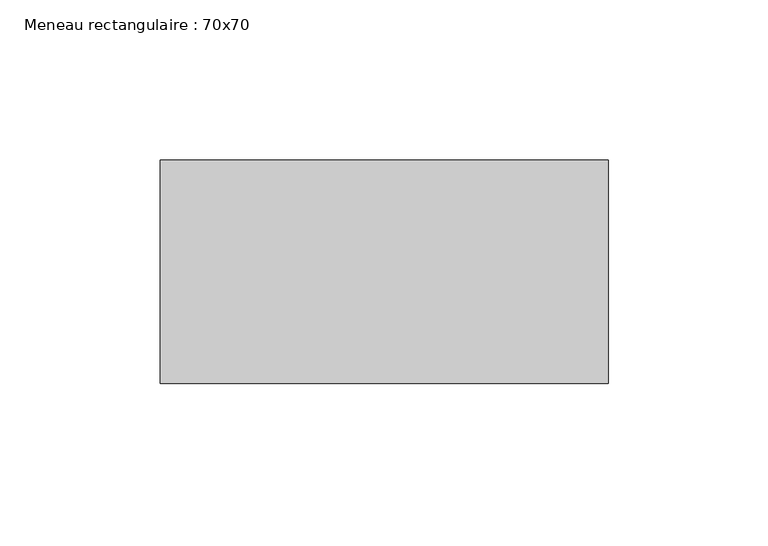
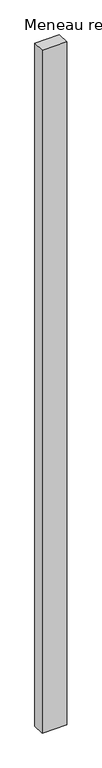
"""IFC4 building model written with IfcOpenShell, lengths in millimetres: member geometry, Meneau rectangulaire : 70x70."""

import ifcopenshell
import ifcopenshell.guid

model = None  # the IFC model being written
_history = None  # IfcOwnerHistory: only IFC2X3 demands one
_inside = {}  # id of a spatial element -> (the spatial element, [elements in it])
_under = {}  # id of a project, library or spatial element -> (it, [spatial elements below it])
_declared = {}  # id of a project -> (the project, [libraries it declares])
_typed = {}  # id of a type object -> (the type object, [elements of that type])
_made_of = {}  # id of a material, layer set ... -> (it, [elements and type objects made of it])


def new_model(schema):
    """Start an empty IFC model of exactly this schema.

    Asked for "IFC4X3", IfcOpenShell would pick the latest addendum, in which some entities
    have other attributes; the version numbers below select the first issue.
    IFC2X3 requires an IfcOwnerHistory on every rooted entity: one is made here for all.
    """
    global model, _history
    if schema == "IFC4X3":
        model = ifcopenshell.file(schema_version=(4, 3, 0, 0))
    else:
        model = ifcopenshell.file(schema=schema)
    _inside.clear()
    _under.clear()
    _declared.clear()
    _typed.clear()
    _made_of.clear()
    _history = None
    if model.schema == "IFC2X3":
        org = make("IfcOrganization", Name="unknown")
        user = make(
            "IfcPersonAndOrganization",
            ThePerson=make("IfcPerson", FamilyName="unknown"),
            TheOrganization=org,
        )
        app = make(
            "IfcApplication",
            ApplicationDeveloper=org,
            Version="unknown",
            ApplicationFullName="unknown",
            ApplicationIdentifier="unknown",
        )
        _history = make(
            "IfcOwnerHistory",
            OwningUser=user,
            OwningApplication=app,
            ChangeAction="ADDED",
            CreationDate=0,
        )
    return model


def make(cls, **values):
    """One entity of the class cls with the attributes given. An attribute that is None is left unset."""
    return model.create_entity(
        cls, **{name: value for name, value in values.items() if value is not None}
    )


def rooted(cls, **values):
    """An entity with a GlobalId (a new one), such as an element, a storey or a relation."""
    return make(cls, GlobalId=ifcopenshell.guid.new(), OwnerHistory=_history, **values)


def si_unit(unit_type, name, prefix=None):
    """IfcSIUnit, for example si_unit("LENGTHUNIT", "METRE", prefix="MILLI")."""
    return make("IfcSIUnit", UnitType=unit_type, Prefix=prefix, Name=name)


def assignment(units):
    """IfcUnitAssignment: the units of a project."""
    return None if units is None else make("IfcUnitAssignment", Units=units)


def point(xyz):
    """IfcCartesianPoint."""
    return None if xyz is None else make("IfcCartesianPoint", Coordinates=xyz)


def direction(xyz):
    """IfcDirection."""
    return None if xyz is None else make("IfcDirection", DirectionRatios=xyz)


def frame(location, z_axis=None, x_axis=None):
    """IfcAxis2Placement3D, a coordinate frame: its origin and axes. An axis left out is left unset."""
    return make(
        "IfcAxis2Placement3D",
        Location=point(location),
        Axis=direction(z_axis),
        RefDirection=direction(x_axis),
    )


def origin():
    """The frame at (0, 0, 0) with its axes left unset."""
    return frame((0.0, 0.0, 0.0))


def place(relative_to, where):
    """IfcLocalPlacement: puts the frame where relative to a parent placement (None: the world)."""
    return make(
        "IfcLocalPlacement", PlacementRelTo=relative_to, RelativePlacement=where
    )


def context(
    kind, dimensions, precision=None, world=None, true_north=None, identifier=None
):
    """IfcGeometricRepresentationContext, for example the 3D "Model" context."""
    return make(
        "IfcGeometricRepresentationContext",
        ContextIdentifier=identifier,
        ContextType=kind,
        CoordinateSpaceDimension=dimensions,
        Precision=precision,
        WorldCoordinateSystem=world,
        TrueNorth=true_north,
    )


def project(units=None, contexts=None):
    """IfcProject with its units and contexts."""
    return rooted(
        "IfcProject",
        Name="project",
        RepresentationContexts=contexts,
        UnitsInContext=assignment(units),
    )


def spatial(cls, under=None, at=None, **own):
    """A site, building, storey or space (cls), placed at a placement, below another one or the project."""
    s = rooted(cls, ObjectPlacement=at, **own)
    if under is not None:
        _under.setdefault(under.id(), (under, []))[1].append(s)
    return s


def polyline(points):
    """IfcPolyline through the points."""
    return make("IfcPolyline", Points=[point(p) for p in points])


def outline(outer, holes=None, kind="AREA"):
    """IfcArbitraryClosedProfileDef: a profile drawn as a closed curve; with holes, ...WithVoids."""
    if holes is None:
        return make("IfcArbitraryClosedProfileDef", ProfileType=kind, OuterCurve=outer)
    return make(
        "IfcArbitraryProfileDefWithVoids",
        ProfileType=kind,
        OuterCurve=outer,
        InnerCurves=holes,
    )


def extrude(swept, where, along, depth):
    """IfcExtrudedAreaSolid: the profile swept, set in the frame where, extruded along a direction by depth."""
    return make(
        "IfcExtrudedAreaSolid",
        SweptArea=swept,
        Position=where,
        ExtrudedDirection=direction(along),
        Depth=depth,
    )


def shape(context_of_items, identifier, shape_type, items):
    """IfcShapeRepresentation: the items that make up one representation, for example the "Body"."""
    return make(
        "IfcShapeRepresentation",
        ContextOfItems=context_of_items,
        RepresentationIdentifier=identifier,
        RepresentationType=shape_type,
        Items=items,
    )


def source(mapping_origin, context_of_items, identifier, shape_type, items):
    """IfcRepresentationMap: a shape defined once, which mapped items show again and again."""
    return make(
        "IfcRepresentationMap",
        MappingOrigin=mapping_origin,
        MappedRepresentation=shape(context_of_items, identifier, shape_type, items),
    )


def transform(
    local_origin,
    x_axis=None,
    y_axis=None,
    z_axis=None,
    scale=None,
    scale2=None,
    scale3=None,
    uniform=True,
):
    """IfcCartesianTransformationOperator3D, or its non-uniform kind. x_axis, y_axis, z_axis: its Axis1, 2, 3."""
    if uniform:
        return make(
            "IfcCartesianTransformationOperator3D",
            Axis1=direction(x_axis),
            Axis2=direction(y_axis),
            LocalOrigin=point(local_origin),
            Scale=scale,
            Axis3=direction(z_axis),
        )
    return make(
        "IfcCartesianTransformationOperator3DnonUniform",
        Axis1=direction(x_axis),
        Axis2=direction(y_axis),
        LocalOrigin=point(local_origin),
        Scale=scale,
        Axis3=direction(z_axis),
        Scale2=scale2,
        Scale3=scale3,
    )


def mapped(mapping_source, mapping_target):
    """IfcMappedItem: shows the shape of a source again, moved by a transform."""
    return make(
        "IfcMappedItem", MappingSource=mapping_source, MappingTarget=mapping_target
    )


def made_of(thing, what):
    """Note that an element or type object is made of a material, layer set ...; save() writes the relation."""
    if what is not None:
        _made_of.setdefault(what.id(), (what, []))[1].append(thing)
    return thing


def element(
    cls,
    number,
    at=None,
    inside=None,
    cuts=None,
    type_object=None,
    material=None,
    context=None,
    identifier="Body",
    shape_type=None,
    held_by="IfcProductDefinitionShape",
    body=None,
    shapes=None,
    **own,
):
    """One element of the class cls, such as IfcWall. Its Tag is "e" and its number.

    at: its placement. inside: the storey or other place that contains it. cuts: it is an
    opening in that element (IfcRelVoidsElement). A single representation is given by context,
    identifier, shape_type and body (its items); several are given by shapes. held_by: the class
    of the entity that holds the representations. save() writes the other relations.
    """
    e = rooted(cls, Tag="e%d" % number, ObjectPlacement=at, **own)
    if body is not None:
        shapes = [shape(context, identifier, shape_type, body)]
    if shapes is not None:
        e.Representation = make(held_by, Representations=shapes)
    if inside is not None:
        _inside.setdefault(inside.id(), (inside, []))[1].append(e)
    if cuts is not None:
        rooted(
            "IfcRelVoidsElement", RelatingBuildingElement=cuts, RelatedOpeningElement=e
        )
    if type_object is not None:
        _typed.setdefault(type_object.id(), (type_object, []))[1].append(e)
    return made_of(e, material)


def aggregate(whole, parts):
    """IfcRelAggregates: a whole, such as a stair, and the parts it consists of."""
    return rooted("IfcRelAggregates", RelatingObject=whole, RelatedObjects=parts)


def save(model, path):
    """Write the relations noted so far, then the file.

    IfcRelAggregates (storeys below a building ...), IfcRelContainedInSpatialStructure (elements
    in a storey), IfcRelDefinesByType, IfcRelAssociatesMaterial and IfcRelDeclares: one each for
    every whole, place, type object, material and project.
    """
    for whole, parts in _under.values():
        aggregate(whole, parts)
    for where, things in _inside.values():
        rooted(
            "IfcRelContainedInSpatialStructure",
            RelatedElements=things,
            RelatingStructure=where,
        )
    for kind, things in _typed.values():
        rooted("IfcRelDefinesByType", RelatedObjects=things, RelatingType=kind)
    for what, things in _made_of.values():
        rooted("IfcRelAssociatesMaterial", RelatedObjects=things, RelatingMaterial=what)
    for by, libraries in _declared.values():
        rooted("IfcRelDeclares", RelatingContext=by, RelatedDefinitions=libraries)
    model.write(path)


def meneau_rectangulaire_70x70_594f4d46(model_context):
    return source(origin(), model_context, "Body", "SweptSolid", [
        extrude(outline(polyline([(0.0, 15.0), (0.0, -55.0), (-140.0, -55.0), (-140.0, 15.0), (0.0, 15.0)])), frame((0.0, 0.0, -4111.4615249), z_axis=(0.0, 0.0, 1.0), x_axis=(1.0, 0.0, 0.0)), (0.0, 0.0, 1.0), 4111.4615249),
    ])


if __name__ == "__main__":
    model = new_model("IFC4")
    model_context = context("Model", 3, world=origin())
    ifc_project = project(units=[si_unit("LENGTHUNIT", "METRE", prefix="MILLI")], contexts=[model_context])
    site = spatial("IfcSite", under=ifc_project)
    building = spatial("IfcBuilding", under=site)
    placement = place(None, origin())
    meneau_rectangulaire_70x70_shape = meneau_rectangulaire_70x70_594f4d46(model_context)
    element("IfcMember", 1, ObjectType="Meneau rectangulaire : 70x70", at=placement, inside=building, context=model_context, shape_type="MappedRepresentation", body=[
        mapped(meneau_rectangulaire_70x70_shape, transform((0.0, 0.0, 0.0), x_axis=(1.0, 0.0, 0.0), y_axis=(0.0, 1.0, 0.0), z_axis=(0.0, 0.0, 1.0))),
    ])
    save(model, "model.ifc")
